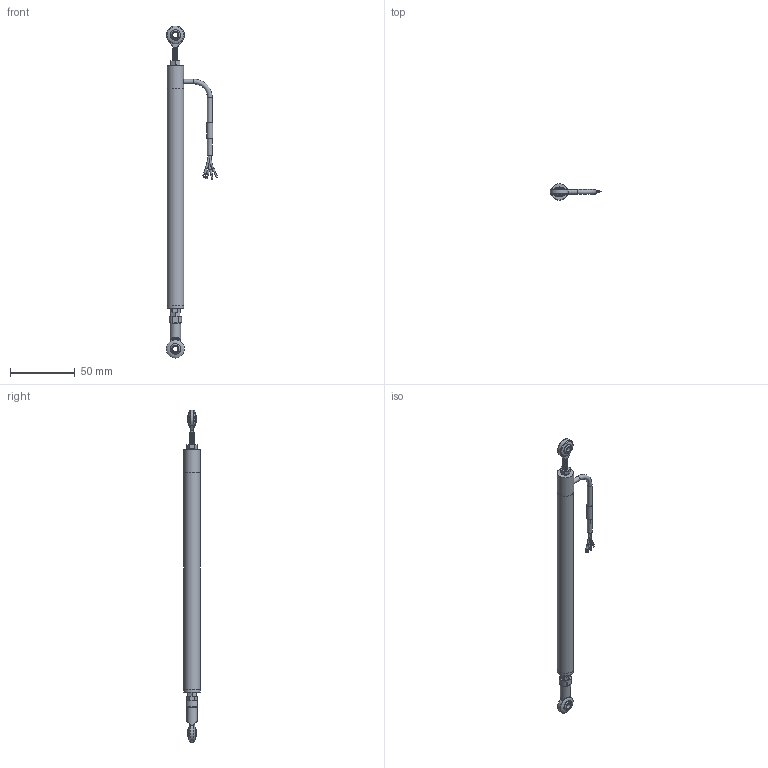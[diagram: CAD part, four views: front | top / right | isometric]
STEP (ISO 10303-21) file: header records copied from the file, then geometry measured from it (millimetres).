
FILE_DESCRIPTION(/* description */ (''),/* implementation_level */ '2;1');
FILE_NAME(/* name */ 'LPPS-12-125-R Assembly (wrapped).step',/* time_stamp */ '2023-10-10T14:08:01-04:00',/* author */ ('TSC_Grant'),/* organization */ (''),/* preprocessor_version */ 'ST-DEVELOPER v19.2',/* originating_system */ 'Autodesk Inventor 2024',/* authorisation */ '');
FILE_SCHEMA (('AUTOMOTIVE_DESIGN { 1 0 10303 214 3 1 1 }'));
Length unit declared in the file: inch
Products named in the file (4): LPPS-12-010-R Assembly (wrapped); LPPS-12-010-R Body (wrapped); LPPS-12-010-R Spoiler (wrapped); Wire
Assembly tree (3 placements, depth 2):
  LPPS-12-010-R Assembly (wrapped)
    LPPS-12-010-R Body (wrapped)
    LPPS-12-010-R Spoiler (wrapped)
    Wire
Bounding box: 39.48 x 12.7 x 255.7 mm (x, y, z)
Volume: 26624.4 mm3; surface area: 15518 mm2
Topology: 13 solids, 13 shells, 200 faces, 462 edges, 306 vertices
Faces by surface type: plane 94, cylinder 74, bspline 21, torus 7, sphere 4
Full cylindrical faces by diameter (mm): 1.016 x3, 1.27 x1, 1.524 x3, 1.651 x2, 3.632 x5, 3.937 x14, 4.14 x2, 4.191 x1, 4.445 x1, 6.604 x1, 8.001 x1, 12.7 x3
Entity records: 9555 total; most frequent: CARTESIAN_POINT 4686, ORIENTED_EDGE 924, DIRECTION 895, EDGE_CURVE 462, AXIS2_PLACEMENT_3D 345, VERTEX_POINT 306, EDGE_LOOP 228, LINE 205
